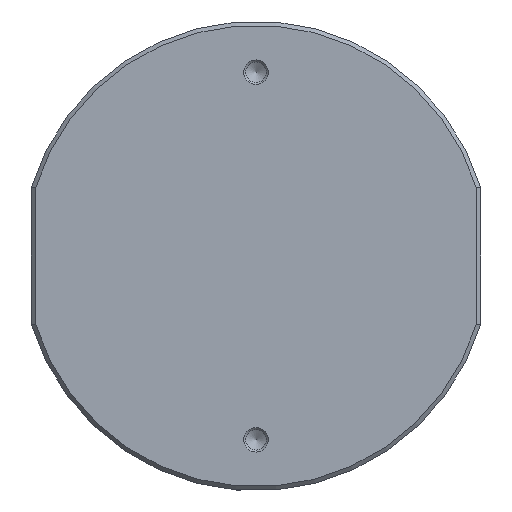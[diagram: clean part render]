
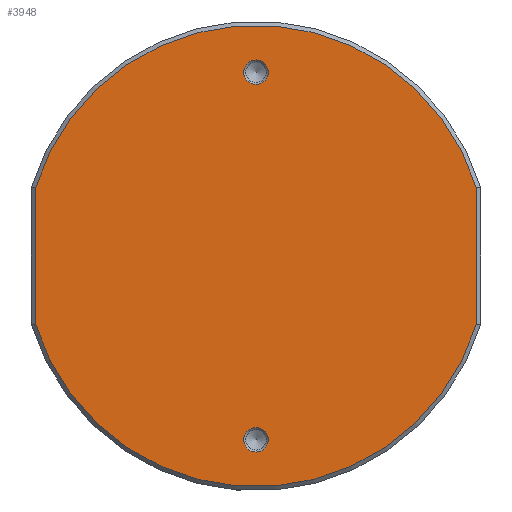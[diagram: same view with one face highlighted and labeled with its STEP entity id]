
A CAD part, front view. The second image highlights one B-rep face of the part: STEP entity #3948.
In plain terms, the highlighted planar face has unit normal (0, -1, 0).
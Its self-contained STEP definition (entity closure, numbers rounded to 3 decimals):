
#1700=LINE('',#18001,#2246);
#1701=LINE('',#18005,#2247);
#2246=VECTOR('',#14749,1.);
#2247=VECTOR('',#14752,1.);
#3948=ADVANCED_FACE('',(#4992,#4993,#4994),#4542,.F.);
#4542=PLANE('',#12716);
#4992=FACE_BOUND('',#5688,.T.);
#4993=FACE_BOUND('',#5689,.T.);
#4994=FACE_BOUND('',#5690,.T.);
#5688=EDGE_LOOP('',(#7172,#7173,#7174,#7175));
#5689=EDGE_LOOP('',(#7176));
#5690=EDGE_LOOP('',(#7177));
#7172=ORIENTED_EDGE('',*,*,#10401,.T.);
#7173=ORIENTED_EDGE('',*,*,#10402,.T.);
#7174=ORIENTED_EDGE('',*,*,#10403,.T.);
#7175=ORIENTED_EDGE('',*,*,#10404,.T.);
#7176=ORIENTED_EDGE('',*,*,#10405,.T.);
#7177=ORIENTED_EDGE('',*,*,#10406,.T.);
#9343=VERTEX_POINT('',#17999);
#9344=VERTEX_POINT('',#18000);
#9345=VERTEX_POINT('',#18002);
#9346=VERTEX_POINT('',#18004);
#9347=VERTEX_POINT('',#18007);
#9348=VERTEX_POINT('',#18009);
#10401=EDGE_CURVE('',#9343,#9344,#11549,.T.);
#10402=EDGE_CURVE('',#9344,#9345,#1700,.T.);
#10403=EDGE_CURVE('',#9345,#9346,#11550,.T.);
#10404=EDGE_CURVE('',#9346,#9343,#1701,.T.);
#10405=EDGE_CURVE('',#9347,#9347,#11551,.T.);
#10406=EDGE_CURVE('',#9348,#9348,#11552,.T.);
#11549=CIRCLE('',#12712,56.5);
#11550=CIRCLE('',#12713,56.5);
#11551=CIRCLE('',#12714,3.);
#11552=CIRCLE('',#12715,3.);
#12712=AXIS2_PLACEMENT_3D('',#17998,#14747,#14748);
#12713=AXIS2_PLACEMENT_3D('',#18003,#14750,#14751);
#12714=AXIS2_PLACEMENT_3D('',#18006,#14753,#14754);
#12715=AXIS2_PLACEMENT_3D('',#18008,#14755,#14756);
#12716=AXIS2_PLACEMENT_3D('',#18010,#14757,#14758);
#14747=DIRECTION('',(0.,-1.,0.));
#14748=DIRECTION('',(0.,0.,1.));
#14749=DIRECTION('',(0.,0.,-1.));
#14750=DIRECTION('',(0.,-1.,0.));
#14751=DIRECTION('',(0.,0.,1.));
#14752=DIRECTION('',(0.,0.,1.));
#14753=DIRECTION('',(0.,1.,0.));
#14754=DIRECTION('',(0.,0.,1.));
#14755=DIRECTION('',(0.,1.,0.));
#14756=DIRECTION('',(0.,0.,1.));
#14757=DIRECTION('',(0.,1.,0.));
#14758=DIRECTION('',(0.,0.,-1.));
#17998=CARTESIAN_POINT('',(45.,-3.,-48.5));
#17999=CARTESIAN_POINT('',(99.,-3.,-31.879));
#18000=CARTESIAN_POINT('',(-9.,-3.,-31.879));
#18001=CARTESIAN_POINT('',(-9.,-3.,-97.));
#18002=CARTESIAN_POINT('',(-9.,-3.,-65.121));
#18003=CARTESIAN_POINT('',(45.,-3.,-48.5));
#18004=CARTESIAN_POINT('',(99.,-3.,-65.121));
#18005=CARTESIAN_POINT('',(99.,-3.,-97.));
#18006=CARTESIAN_POINT('',(45.,-3.,-93.5));
#18007=CARTESIAN_POINT('',(45.,-3.,-90.5));
#18008=CARTESIAN_POINT('',(45.,-3.,-3.5));
#18009=CARTESIAN_POINT('',(45.,-3.,-0.5));
#18010=CARTESIAN_POINT('',(0.,-3.,-97.));
